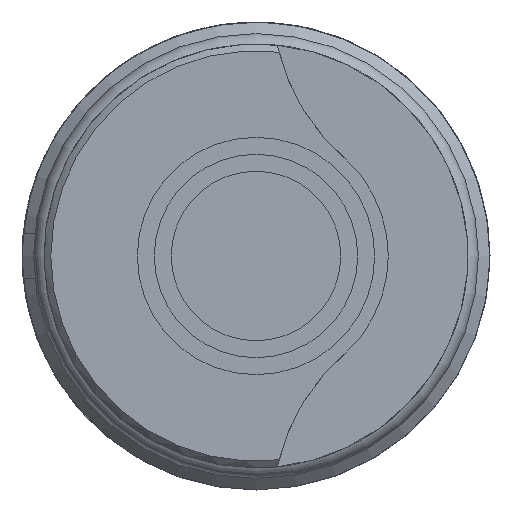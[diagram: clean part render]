
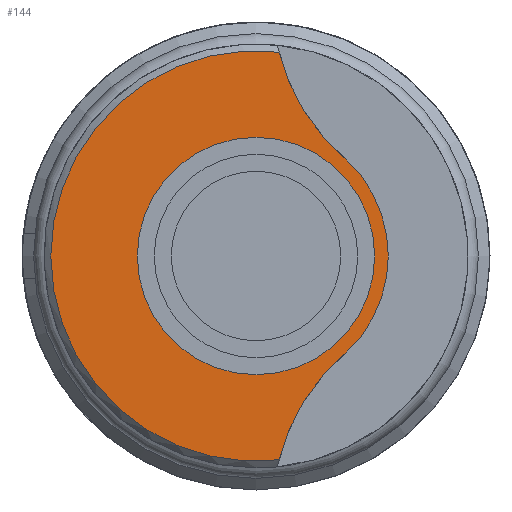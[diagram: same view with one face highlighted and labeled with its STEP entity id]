
A CAD part, left-side view. The second image highlights one B-rep face of the part: STEP entity #144.
In plain terms, the highlighted planar face has unit normal (-1, 0, 0).
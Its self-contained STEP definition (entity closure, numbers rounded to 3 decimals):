
#144 = ADVANCED_FACE( '', ( #306, #307 ), #308, .F. );
#306 = FACE_OUTER_BOUND( '', #473, .T. );
#307 = FACE_BOUND( '', #474, .T. );
#308 = PLANE( '', #475 );
#473 = EDGE_LOOP( '', ( #811, #812, #813, #814 ) );
#474 = EDGE_LOOP( '', ( #815 ) );
#475 = AXIS2_PLACEMENT_3D( '', #816, #817, #818 );
#811 = ORIENTED_EDGE( '', *, *, #977, .F. );
#812 = ORIENTED_EDGE( '', *, *, #908, .T. );
#813 = ORIENTED_EDGE( '', *, *, #1004, .F. );
#814 = ORIENTED_EDGE( '', *, *, #989, .T. );
#815 = ORIENTED_EDGE( '', *, *, #1002, .T. );
#816 = CARTESIAN_POINT( '', ( 0., 3.5, 0. ) );
#817 = DIRECTION( '', ( 1., 0., 0. ) );
#818 = DIRECTION( '', ( 0., 0., -1. ) );
#908 = EDGE_CURVE( '', #1069, #1067, #1070, .T. );
#977 = EDGE_CURVE( '', #1069, #1173, #1174, .T. );
#989 = EDGE_CURVE( '', #1191, #1173, #1192, .T. );
#1002 = EDGE_CURVE( '', #1207, #1207, #1208, .T. );
#1004 = EDGE_CURVE( '', #1191, #1067, #1210, .T. );
#1067 = VERTEX_POINT( '', #1285 );
#1069 = VERTEX_POINT( '', #1288 );
#1070 = CIRCLE( '', #1289, 6. );
#1173 = VERTEX_POINT( '', #1441 );
#1174 = CIRCLE( '', #1442, 6.05 );
#1191 = VERTEX_POINT( '', #1468 );
#1192 = CIRCLE( '', #1469, 6. );
#1207 = VERTEX_POINT( '', #1490 );
#1208 = CIRCLE( '', #1491, 3.5 );
#1210 = CIRCLE( '', #1493, 3.9 );
#1285 = CARTESIAN_POINT( '', ( 0., -2.681, -2.832 ) );
#1288 = CARTESIAN_POINT( '', ( 0., -0.677, -6.012 ) );
#1289 = AXIS2_PLACEMENT_3D( '', #1553, #1554, #1555 );
#1441 = CARTESIAN_POINT( '', ( 0., -0.677, 6.012 ) );
#1442 = AXIS2_PLACEMENT_3D( '', #1632, #1633, #1634 );
#1468 = CARTESIAN_POINT( '', ( 0., -2.681, 2.832 ) );
#1469 = AXIS2_PLACEMENT_3D( '', #1644, #1645, #1646 );
#1490 = CARTESIAN_POINT( '', ( 0., 0., -3.5 ) );
#1491 = AXIS2_PLACEMENT_3D( '', #1656, #1657, #1658 );
#1493 = AXIS2_PLACEMENT_3D( '', #1659, #1660, #1661 );
#1553 = CARTESIAN_POINT( '', ( 0., -6.5, -7.46 ) );
#1554 = DIRECTION( '', ( 1., 0., 0. ) );
#1555 = DIRECTION( '', ( 0., 0., -1. ) );
#1632 = CARTESIAN_POINT( '', ( 0., 0., 0. ) );
#1633 = DIRECTION( '', ( 1., 0., 0. ) );
#1634 = DIRECTION( '', ( 0., 0., -1. ) );
#1644 = CARTESIAN_POINT( '', ( 0., -6.5, 7.46 ) );
#1645 = DIRECTION( '', ( 1., 0., 0. ) );
#1646 = DIRECTION( '', ( 0., 0., -1. ) );
#1656 = CARTESIAN_POINT( '', ( 0., 0., 0. ) );
#1657 = DIRECTION( '', ( 1., 0., 0. ) );
#1658 = DIRECTION( '', ( 0., 0., -1. ) );
#1659 = CARTESIAN_POINT( '', ( 0., 0., 0. ) );
#1660 = DIRECTION( '', ( 1., 0., 0. ) );
#1661 = DIRECTION( '', ( 0., 0., -1. ) );
